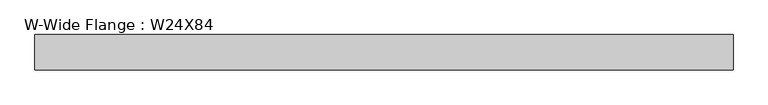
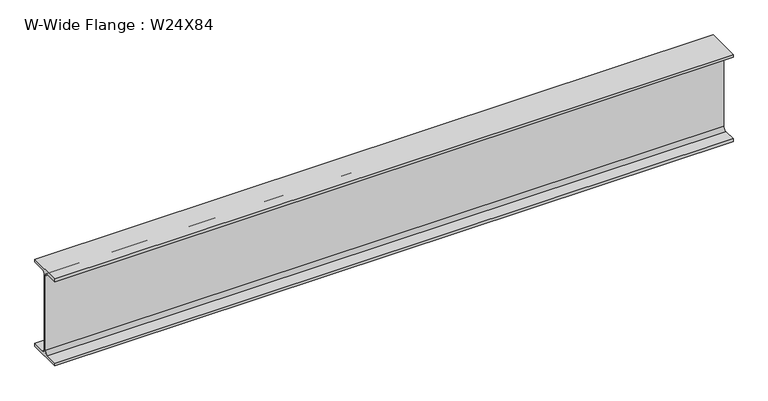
"""IFC4 building model written with IfcOpenShell, lengths in millimetres: beam geometry, W-Wide Flange : W24X84."""

from ifc_helpers import new_model, si_unit, point, frame, frame_2d, origin, place, context, project, spatial, polyline, circle_curve, trimmed, segment, composite_curve, outline, extrude, source, transform, mapped, element, save


def w_wide_flange_w24x84_4409fa3f(model_context):
    return source(origin(), model_context, "Body", "SweptSolid", [
        extrude(outline(composite_curve([segment(polyline([(114.554, -286.512), (114.554, -306.07), (-114.554, -306.07), (-114.554, -286.512), (-29.2735, -286.512)]), True, "CONTINUOUS"), segment(trimmed(circle_curve(frame_2d((-29.2735, -263.2075)), 23.3045), [point((-29.2735, -286.512))], [point((-5.969, -263.2075))], True, "CARTESIAN"), True, "CONTINUOUS"), segment(polyline([(-5.969, -263.2075), (-5.969, 263.2075)]), True, "CONTINUOUS"), segment(trimmed(circle_curve(frame_2d((-29.2735, 263.2075)), 23.3045), [point((-5.969, 263.2075))], [point((-29.2735, 286.512))], True, "CARTESIAN"), True, "CONTINUOUS"), segment(polyline([(-29.2735, 286.512), (-114.554, 286.512), (-114.554, 306.07), (114.554, 306.07), (114.554, 286.512), (29.2735, 286.512)]), True, "CONTINUOUS"), segment(trimmed(circle_curve(frame_2d((29.2735, 263.2075)), 23.3045), [point((29.2735, 286.512))], [point((5.969, 263.2075))], True, "CARTESIAN"), True, "CONTINUOUS"), segment(polyline([(5.969, 263.2075), (5.969, -263.2075)]), True, "CONTINUOUS"), segment(trimmed(circle_curve(frame_2d((29.2735, -263.2075)), 23.3045), [point((5.969, -263.2075))], [point((29.2735, -286.512))], True, "CARTESIAN"), True, "CONTINUOUS"), segment(polyline([(29.2735, -286.512), (114.554, -286.512)]), True, "CONTINUOUS")], self_intersect=False)), frame((-2263.3037109, 0.0, 0.0), z_axis=(1.0, 0.0, 0.0), x_axis=(0.0, 1.0, 0.0)), (0.0, 0.0, 1.0), 4513.1632812),
    ])


if __name__ == "__main__":
    model = new_model("IFC4")
    model_context = context("Model", 3, world=origin())
    ifc_project = project(units=[si_unit("LENGTHUNIT", "METRE", prefix="MILLI")], contexts=[model_context])
    site = spatial("IfcSite", under=ifc_project)
    building = spatial("IfcBuilding", under=site)
    placement = place(None, origin())
    w_wide_flange_w24x84_shape = w_wide_flange_w24x84_4409fa3f(model_context)
    element("IfcBeam", 1, ObjectType="W-Wide Flange : W24X84", at=placement, inside=building, context=model_context, shape_type="MappedRepresentation", body=[
        mapped(w_wide_flange_w24x84_shape, transform((0.0, 0.0, 0.0), x_axis=(1.0, 0.0, 0.0), y_axis=(0.0, 1.0, 0.0), z_axis=(0.0, 0.0, 1.0))),
    ])
    save(model, "model.ifc")
